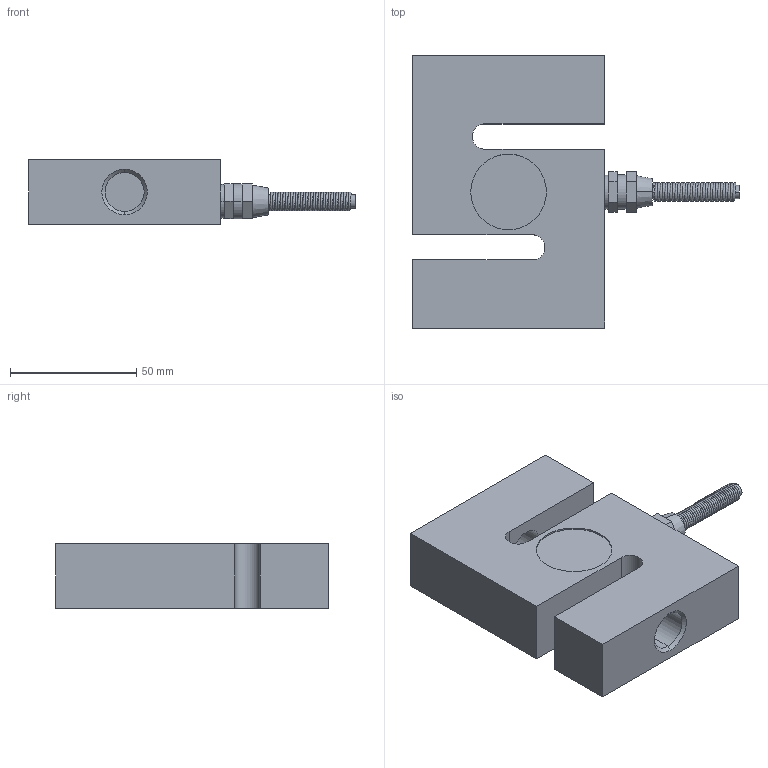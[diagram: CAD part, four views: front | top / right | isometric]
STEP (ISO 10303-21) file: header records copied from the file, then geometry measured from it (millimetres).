
FILE_DESCRIPTION (( 'STEP AP214' ), '1' );
FILE_NAME ('3D_KM1502-20KN.STEP', '2014-01-23T14:59:57', ( '' ), ( '' ), 'SwSTEP 2.0', 'SolidWorks 2012', '' );
FILE_SCHEMA (( 'AUTOMOTIVE_DESIGN' ));
Length unit declared in the file: millimetre
Products named in the file (1): 3D_KM1502-20KN
Bounding box: 129.7 x 108 x 25.5 mm (x, y, z)
Volume: 176333.3 mm3; surface area: 34138.1 mm2
Topology: 2 solids, 2 shells, 69 faces, 161 edges, 102 vertices
Faces by surface type: plane 44, cylinder 17, cone 6, bspline 2
Entity records: 10325 total; most frequent: CARTESIAN_POINT 8601, DIRECTION 353, ORIENTED_EDGE 322, EDGE_CURVE 161, AXIS2_PLACEMENT_3D 126, VERTEX_POINT 102, LINE 101, VECTOR 101
